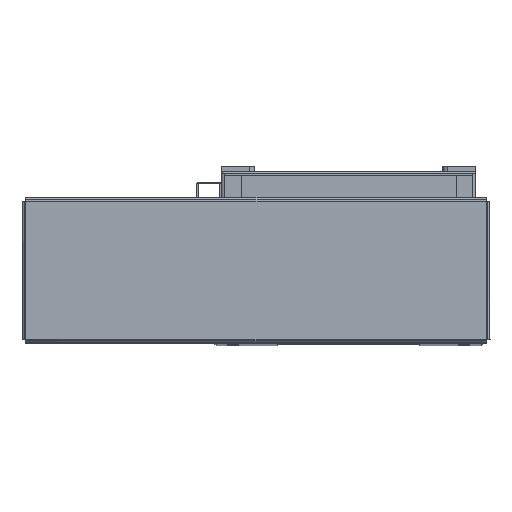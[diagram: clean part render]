
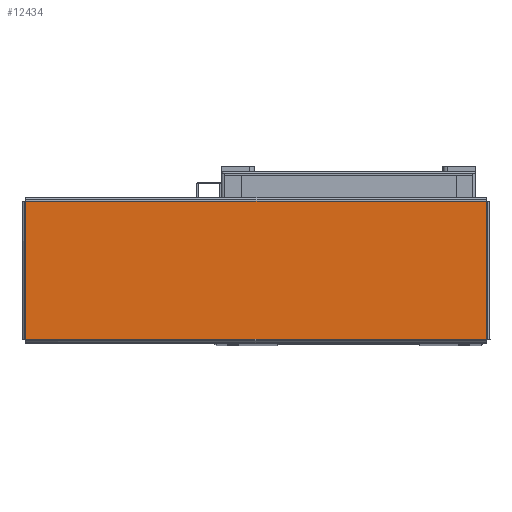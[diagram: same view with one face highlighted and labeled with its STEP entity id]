
A CAD part, top view. The second image highlights one B-rep face of the part: STEP entity #12434.
In plain terms, the highlighted planar face has unit normal (0, 0, 1) as drawn and (0, -1, 0) by its records, which use the part's own axes.
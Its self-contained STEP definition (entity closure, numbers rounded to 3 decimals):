
#12434 = ADVANCED_FACE ( 'NONE', ( #37140 ), #51412, .F. ) ;
#16757 = LINE ( 'NONE', #35835, #16764 ) ;
#16764 = VECTOR ( 'NONE', #35817, 1000. ) ;
#16801 = VECTOR ( 'NONE', #35870, 1000. ) ;
#16821 = LINE ( 'NONE', #35914, #16822 ) ;
#16822 = VECTOR ( 'NONE', #35893, 1000. ) ;
#16828 = LINE ( 'NONE', #35882, #16801 ) ;
#16832 = LINE ( 'NONE', #35834, #16833 ) ;
#16833 = VECTOR ( 'NONE', #35811, 1000. ) ;
#26031 = AXIS2_PLACEMENT_3D ( 'NONE', #51420, #51383, #51386 ) ;
#27867 = EDGE_LOOP ( 'NONE', ( #38283, #38259, #38233, #38321 ) ) ;
#29046 = VERTEX_POINT ( 'NONE', #34955 ) ;
#29048 = VERTEX_POINT ( 'NONE', #34962 ) ;
#29064 = VERTEX_POINT ( 'NONE', #34910 ) ;
#29085 = VERTEX_POINT ( 'NONE', #34958 ) ;
#29669 = EDGE_CURVE ( 'NONE', #29064, #29048, #16757, .T. ) ;
#29684 = EDGE_CURVE ( 'NONE', #29048, #29046, #16832, .T. ) ;
#29691 = EDGE_CURVE ( 'NONE', #29046, #29085, #16828, .T. ) ;
#29709 = EDGE_CURVE ( 'NONE', #29085, #29064, #16821, .T. ) ;
#34910 = CARTESIAN_POINT ( 'NONE',  ( 139.263, -1.5, 41.763 ) ) ;
#34955 = CARTESIAN_POINT ( 'NONE',  ( -139.263, -1.5, -41.763 ) ) ;
#34958 = CARTESIAN_POINT ( 'NONE',  ( 139.263, -1.5, -41.763 ) ) ;
#34962 = CARTESIAN_POINT ( 'NONE',  ( -139.263, -1.5, 41.763 ) ) ;
#35811 = DIRECTION ( 'NONE',  ( 0., 0., -1. ) ) ;
#35817 = DIRECTION ( 'NONE',  ( -1., 0., 0. ) ) ;
#35834 = CARTESIAN_POINT ( 'NONE',  ( -139.263, -1.5, 41.793 ) ) ;
#35835 = CARTESIAN_POINT ( 'NONE',  ( 139.293, -1.5, 41.763 ) ) ;
#35870 = DIRECTION ( 'NONE',  ( 1., 0., 0. ) ) ;
#35882 = CARTESIAN_POINT ( 'NONE',  ( -139.293, -1.5, -41.763 ) ) ;
#35893 = DIRECTION ( 'NONE',  ( 0., 0., 1. ) ) ;
#35914 = CARTESIAN_POINT ( 'NONE',  ( 139.263, -1.5, -41.793 ) ) ;
#37140 = FACE_OUTER_BOUND ( 'NONE', #27867, .T. ) ;
#38233 = ORIENTED_EDGE ( 'NONE', *, *, #29684, .T. ) ;
#38259 = ORIENTED_EDGE ( 'NONE', *, *, #29669, .T. ) ;
#38283 = ORIENTED_EDGE ( 'NONE', *, *, #29709, .T. ) ;
#38321 = ORIENTED_EDGE ( 'NONE', *, *, #29691, .T. ) ;
#51383 = DIRECTION ( 'NONE',  ( 0., 1., 0. ) ) ;
#51386 = DIRECTION ( 'NONE',  ( 0., 0., 1. ) ) ;
#51412 = PLANE ( 'NONE',  #26031 ) ;
#51420 = CARTESIAN_POINT ( 'NONE',  ( 0., -1.5, 0. ) ) ;
